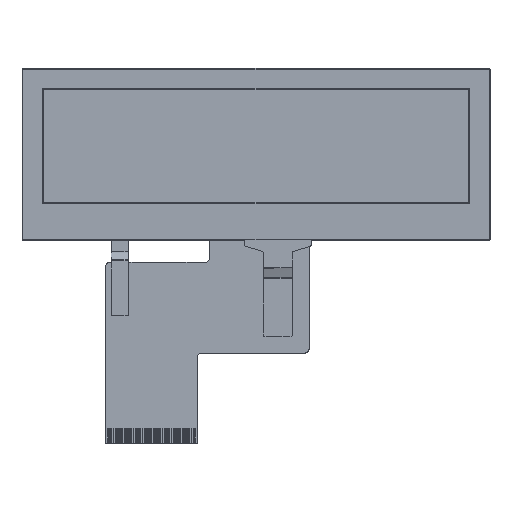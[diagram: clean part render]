
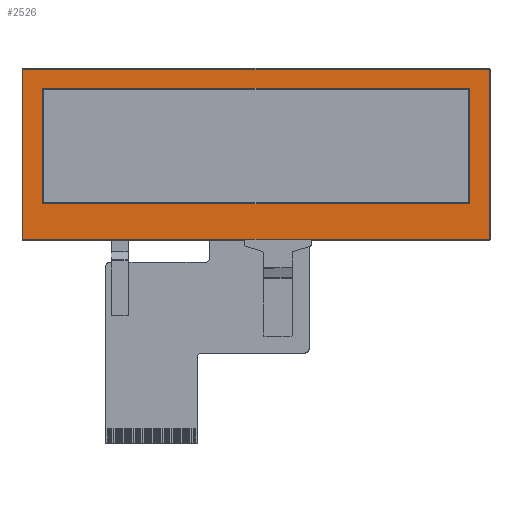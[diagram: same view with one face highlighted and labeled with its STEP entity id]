
A CAD part, top view. The second image highlights one B-rep face of the part: STEP entity #2526.
In plain terms, the highlighted planar face has unit normal (0, 0, 1).
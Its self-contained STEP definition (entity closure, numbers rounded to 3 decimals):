
#250 = DIRECTION ( 'NONE',  ( 1., 0., 0. ) ) ;
#1337 = CARTESIAN_POINT ( 'NONE',  ( 21922.483, 3150.609, 0. ) ) ;
#1957 = VERTEX_POINT ( 'NONE', #8396 ) ;
#2063 = ORIENTED_EDGE ( 'NONE', *, *, #5647, .T. ) ;
#2116 = CARTESIAN_POINT ( 'NONE',  ( 21984.467, 3150.609, 0. ) ) ;
#2138 = VERTEX_POINT ( 'NONE', #2116 ) ;
#2314 = ORIENTED_EDGE ( 'NONE', *, *, #4437, .T. ) ;
#2351 = ORIENTED_EDGE ( 'NONE', *, *, #8527, .T. ) ;
#2416 = AXIS2_PLACEMENT_3D ( 'NONE', #1337, #3170, #250 ) ;
#2526 = ADVANCED_FACE ( 'NONE', ( #11256 ), #8615, .T. ) ;
#3170 = DIRECTION ( 'NONE',  ( 0., 0., 1. ) ) ;
#3183 = LINE ( 'NONE', #10424, #5058 ) ;
#4239 = LINE ( 'NONE', #5969, #4329 ) ;
#4329 = VECTOR ( 'NONE', #9789, 1000. ) ;
#4437 = EDGE_CURVE ( 'NONE', #2138, #1957, #8478, .T. ) ;
#4459 = VERTEX_POINT ( 'NONE', #5908 ) ;
#5058 = VECTOR ( 'NONE', #9584, 1000. ) ;
#5647 = EDGE_CURVE ( 'NONE', #9026, #2138, #9065, .T. ) ;
#5727 = DIRECTION ( 'NONE',  ( 0., 1., 0. ) ) ;
#5908 = CARTESIAN_POINT ( 'NONE',  ( 21879.967, 3188.737, 0. ) ) ;
#5969 = CARTESIAN_POINT ( 'NONE',  ( 21879.967, 3150.609, 0. ) ) ;
#6138 = CARTESIAN_POINT ( 'NONE',  ( 21984.467, 3150.609, 0. ) ) ;
#6177 = VECTOR ( 'NONE', #11707, 1000. ) ;
#7202 = CARTESIAN_POINT ( 'NONE',  ( 21879.967, 3150.609, 0. ) ) ;
#7300 = VECTOR ( 'NONE', #5727, 1000. ) ;
#7340 = CARTESIAN_POINT ( 'NONE',  ( 21984.467, 3188.737, 0. ) ) ;
#7775 = EDGE_CURVE ( 'NONE', #1957, #4459, #3183, .T. ) ;
#8396 = CARTESIAN_POINT ( 'NONE',  ( 21984.467, 3188.737, 0. ) ) ;
#8478 = LINE ( 'NONE', #7340, #7300 ) ;
#8527 = EDGE_CURVE ( 'NONE', #4459, #9026, #4239, .T. ) ;
#8615 = PLANE ( 'NONE',  #2416 ) ;
#9026 = VERTEX_POINT ( 'NONE', #7202 ) ;
#9065 = LINE ( 'NONE', #6138, #6177 ) ;
#9584 = DIRECTION ( 'NONE',  ( -1., 0., 0. ) ) ;
#9789 = DIRECTION ( 'NONE',  ( 0., -1., 0. ) ) ;
#10424 = CARTESIAN_POINT ( 'NONE',  ( 21879.967, 3188.737, 0. ) ) ;
#10942 = EDGE_LOOP ( 'NONE', ( #11307, #2351, #2063, #2314 ) ) ;
#11256 = FACE_OUTER_BOUND ( 'NONE', #10942, .T. ) ;
#11307 = ORIENTED_EDGE ( 'NONE', *, *, #7775, .T. ) ;
#11707 = DIRECTION ( 'NONE',  ( 1., 0., 0. ) ) ;
